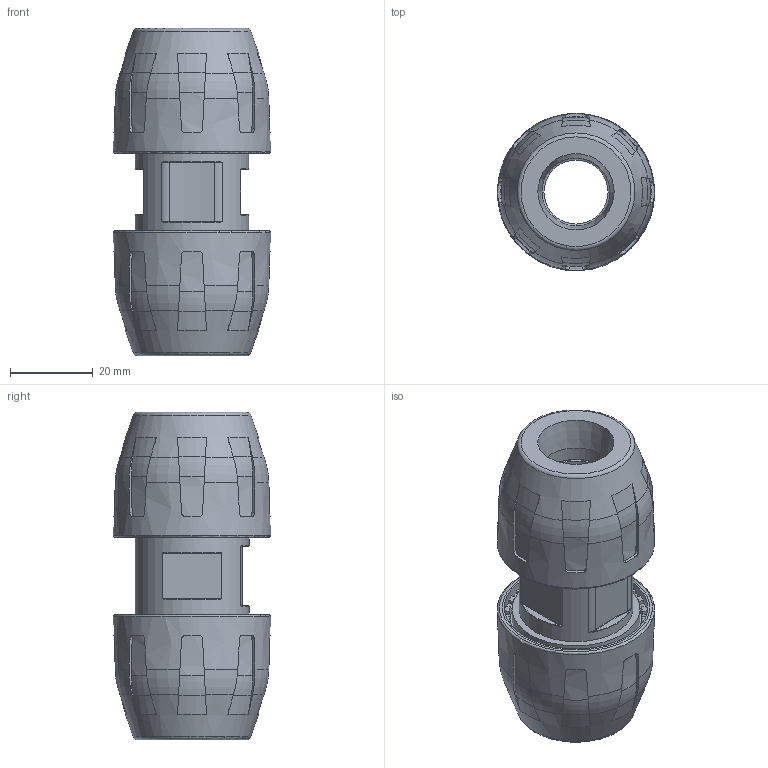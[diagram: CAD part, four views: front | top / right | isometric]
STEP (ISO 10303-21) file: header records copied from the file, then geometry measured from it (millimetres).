
FILE_DESCRIPTION( ( 'STEP AP214' ), '1' );
FILE_NAME( ' ', ' ', ( ' ' ), ( ' ' ), 'PSStep 11.0', 'VISI 17.0', ' ' );
FILE_SCHEMA( ( 'AUTOMOTIVE_DESIGN { 1 0 10303 214 1 1 1 1 }' ) );
Length unit declared in the file: millimetre
Products named in the file (3): 1; 2; 3
Bounding box: 38.12 x 38.1 x 79.3 mm (x, y, z)
Volume: 52687.8 mm3; surface area: 24599 mm2
Topology: 3 solids, 3 shells, 405 faces, 1130 edges, 741 vertices
Faces by surface type: plane 194, cone 86, cylinder 59, bspline 42, torus 24
Full cylindrical faces by diameter (mm): 15.5 x1, 16.5 x4, 27.6 x3, 28.5 x4, 28.9 x2, 31 x2, 34.736 x2
Entity records: 18486 total; most frequent: CARTESIAN_POINT 5656, ORIENTED_EDGE 2112, DIRECTION 1846, EDGE_CURVE 1056, AXIS2_PLACEMENT_3D 802, VERTEX_POINT 716, EDGE_LOOP 470, FACE_OUTER_BOUND 435
